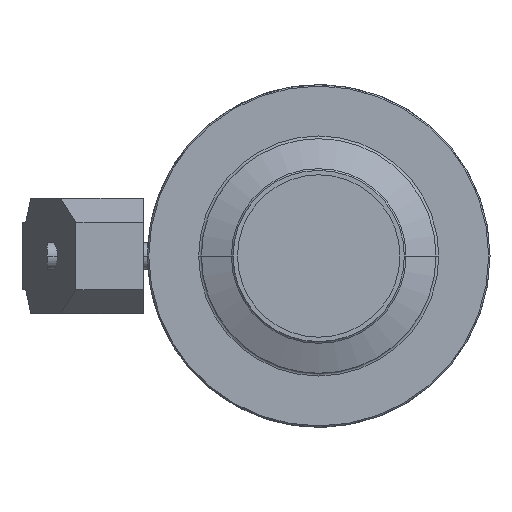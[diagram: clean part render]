
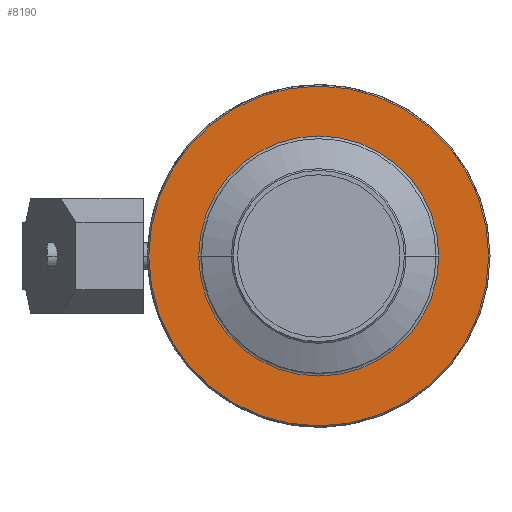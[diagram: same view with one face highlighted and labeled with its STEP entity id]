
A CAD part, left-side view. The second image highlights one B-rep face of the part: STEP entity #8190.
In plain terms, the highlighted planar face has unit normal (-1, 0, 0).
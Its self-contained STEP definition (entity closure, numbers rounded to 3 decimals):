
#7840=CARTESIAN_POINT('',(24.717,43.162,0.));
#7850=DIRECTION('',(1.,0.,0.));
#7860=DIRECTION('',(0.,-1.,0.));
#7870=AXIS2_PLACEMENT_3D('',#7840,#7850,#7860);
#7880=PLANE('',#7870);
#7890=CARTESIAN_POINT('',(24.717,-4.188,0.));
#7900=DIRECTION('',(1.,0.,0.));
#7910=DIRECTION('',(0.,1.,0.));
#7920=AXIS2_PLACEMENT_3D('',#7890,#7900,#7910);
#7930=CIRCLE('',#7920,44.5);
#7940=CARTESIAN_POINT('',(24.717,40.312,0.));
#7950=VERTEX_POINT('',#7940);
#7960=CARTESIAN_POINT('',(24.717,-48.688,0.));
#7970=VERTEX_POINT('',#7960);
#7980=EDGE_CURVE('',#7950,#7970,#7930,.T.);
#7990=ORIENTED_EDGE('',*,*,#7980,.T.);
#8000=EDGE_CURVE('',#7970,#7950,#7930,.T.);
#8010=ORIENTED_EDGE('',*,*,#8000,.T.);
#8020=EDGE_LOOP('',(#8010,#7990));
#8030=FACE_BOUND('',#8020,.T.);
#8040=CARTESIAN_POINT('',(24.717,-4.188,0.));
#8050=DIRECTION('',(1.,0.,0.));
#8060=DIRECTION('',(0.,1.,0.));
#8070=AXIS2_PLACEMENT_3D('',#8040,#8050,#8060);
#8080=CIRCLE('',#8070,63.);
#8090=CARTESIAN_POINT('',(24.717,58.812,
0.));
#8100=VERTEX_POINT('',#8090);
#8110=CARTESIAN_POINT('',(24.717,-67.188,0.));
#8120=VERTEX_POINT('',#8110);
#8130=EDGE_CURVE('',#8100,#8120,#8080,.T.);
#8140=ORIENTED_EDGE('',*,*,#8130,.F.);
#8150=EDGE_CURVE('',#8120,#8100,#8080,.T.);
#8160=ORIENTED_EDGE('',*,*,#8150,.F.);
#8170=EDGE_LOOP('',(#8160,#8140));
#8180=FACE_OUTER_BOUND('',#8170,.T.);
#8190=ADVANCED_FACE('',(#8030,#8180),#7880,.F.);
